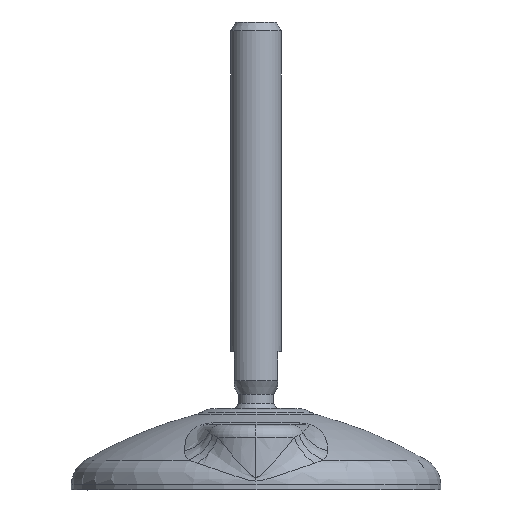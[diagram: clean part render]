
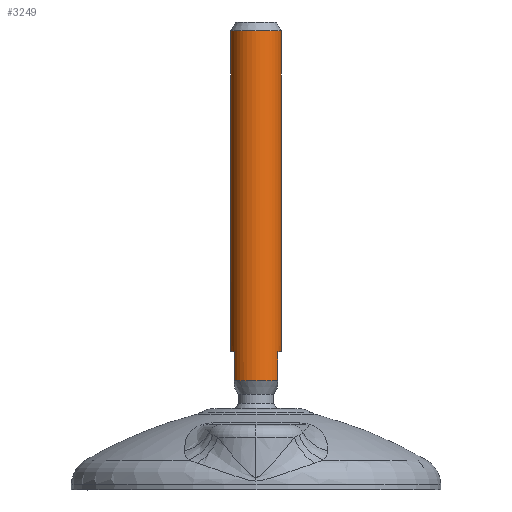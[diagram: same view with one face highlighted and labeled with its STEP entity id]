
A CAD part, left-side view. The second image highlights one B-rep face of the part: STEP entity #3249.
In plain terms, the highlighted cylindrical face has radius 7 mm (diameter 14 mm), a full revolution.
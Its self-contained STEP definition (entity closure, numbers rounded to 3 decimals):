
#3163=CARTESIAN_POINT('',(0.,0.,131.53));
#3164=DIRECTION('',(0.,0.,-1.0));
#3165=DIRECTION('',(1.0,0.,0.));
#3166=AXIS2_PLACEMENT_3D('',#3163,#3164,#3165);
#3167=CYLINDRICAL_SURFACE('',#3166,7.);
#3168=CARTESIAN_POINT('',(7.,0.,126.702));
#3169=VERTEX_POINT('',#3168);
#3170=CARTESIAN_POINT('',(0.,0.,126.702));
#3171=DIRECTION('',(0.,0.,-1.0));
#3172=DIRECTION('',(1.0,0.,0.));
#3173=AXIS2_PLACEMENT_3D('',#3170,#3171,#3172);
#3174=CIRCLE('',#3173,7.);
#3175=EDGE_CURVE('',#3169,#3169,#3174,.T.);
#3176=ORIENTED_EDGE('',*,*,#3175,.T.);
#3177=EDGE_LOOP('',(#3176));
#3178=FACE_BOUND('',#3177,.T.);
#3179=CARTESIAN_POINT('',(3.606,6.,38.153));
#3180=VERTEX_POINT('',#3179);
#3181=CARTESIAN_POINT('',(-3.606,6.,38.153));
#3182=VERTEX_POINT('',#3181);
#3183=CARTESIAN_POINT('',(0.,0.,38.153));
#3184=DIRECTION('',(0.,0.,1.));
#3185=DIRECTION('',(0.515,0.857,0.));
#3186=AXIS2_PLACEMENT_3D('',#3183,#3184,#3185);
#3187=CIRCLE('',#3186,7.);
#3188=EDGE_CURVE('',#3180,#3182,#3187,.T.);
#3189=ORIENTED_EDGE('',*,*,#3188,.T.);
#3190=CARTESIAN_POINT('',(-3.606,6.,30.153));
#3191=VERTEX_POINT('',#3190);
#3192=CARTESIAN_POINT('',(-3.606,6.,38.153));
#3193=DIRECTION('',(0.,0.,-1.));
#3194=VECTOR('',#3193,1.);
#3195=LINE('',#3192,#3194);
#3196=EDGE_CURVE('',#3182,#3191,#3195,.T.);
#3197=ORIENTED_EDGE('',*,*,#3196,.T.);
#3198=CARTESIAN_POINT('',(-3.606,-6.,30.153));
#3199=VERTEX_POINT('',#3198);
#3200=CARTESIAN_POINT('',(0.,0.,30.153));
#3201=DIRECTION('',(0.,0.,-1.0));
#3202=DIRECTION('',(-0.515,-0.857,0.));
#3203=AXIS2_PLACEMENT_3D('',#3200,#3201,#3202);
#3204=CIRCLE('',#3203,7.);
#3205=EDGE_CURVE('',#3199,#3191,#3204,.T.);
#3206=ORIENTED_EDGE('',*,*,#3205,.F.);
#3207=CARTESIAN_POINT('',(-3.606,-6.,38.153));
#3208=VERTEX_POINT('',#3207);
#3209=CARTESIAN_POINT('',(-3.606,-6.,38.153));
#3210=DIRECTION('',(0.,0.,-1.));
#3211=VECTOR('',#3210,1.);
#3212=LINE('',#3209,#3211);
#3213=EDGE_CURVE('',#3208,#3199,#3212,.T.);
#3214=ORIENTED_EDGE('',*,*,#3213,.F.);
#3215=CARTESIAN_POINT('',(3.606,-6.,38.153));
#3216=VERTEX_POINT('',#3215);
#3217=CARTESIAN_POINT('',(0.,0.,38.153));
#3218=DIRECTION('',(0.0,0.,-1.0));
#3219=DIRECTION('',(0.515,-0.857,0.));
#3220=AXIS2_PLACEMENT_3D('',#3217,#3218,#3219);
#3221=CIRCLE('',#3220,7.);
#3222=EDGE_CURVE('',#3216,#3208,#3221,.T.);
#3223=ORIENTED_EDGE('',*,*,#3222,.F.);
#3224=CARTESIAN_POINT('',(3.606,-6.,30.153));
#3225=VERTEX_POINT('',#3224);
#3226=CARTESIAN_POINT('',(3.606,-6.,30.153));
#3227=DIRECTION('',(0.,0.,1.));
#3228=VECTOR('',#3227,1.);
#3229=LINE('',#3226,#3228);
#3230=EDGE_CURVE('',#3225,#3216,#3229,.T.);
#3231=ORIENTED_EDGE('',*,*,#3230,.F.);
#3232=CARTESIAN_POINT('',(3.606,6.,30.153));
#3233=VERTEX_POINT('',#3232);
#3234=CARTESIAN_POINT('',(0.,0.,30.153));
#3235=DIRECTION('',(0.,0.,-1.0));
#3236=DIRECTION('',(0.515,0.857,0.));
#3237=AXIS2_PLACEMENT_3D('',#3234,#3235,#3236);
#3238=CIRCLE('',#3237,7.);
#3239=EDGE_CURVE('',#3233,#3225,#3238,.T.);
#3240=ORIENTED_EDGE('',*,*,#3239,.F.);
#3241=CARTESIAN_POINT('',(3.606,6.,30.153));
#3242=DIRECTION('',(0.,0.,1.));
#3243=VECTOR('',#3242,1.);
#3244=LINE('',#3241,#3243);
#3245=EDGE_CURVE('',#3233,#3180,#3244,.T.);
#3246=ORIENTED_EDGE('',*,*,#3245,.T.);
#3247=EDGE_LOOP('',(#3189,#3197,#3206,#3214,#3223,#3231,#3240,#3246));
#3248=FACE_BOUND('',#3247,.T.);
#3249=ADVANCED_FACE('',(#3178,#3248),#3167,.T.);
